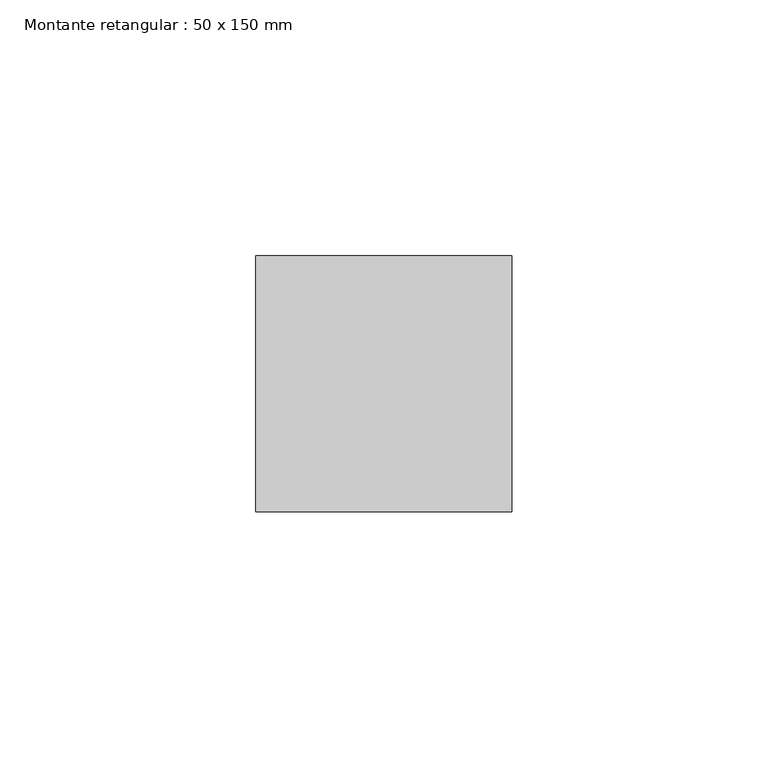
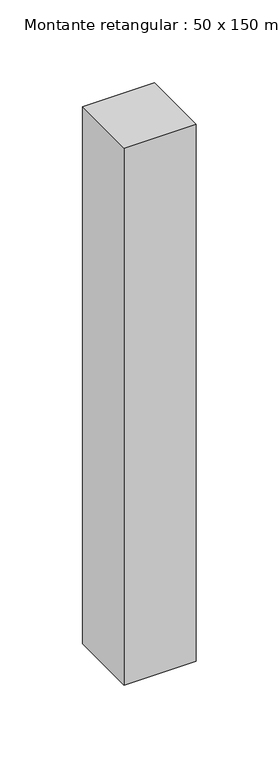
"""IFC4 building model written with IfcOpenShell, lengths in millimetres: member geometry, Montante retangular : 50 x 150 mm."""

from ifc_helpers import new_model, si_unit, frame, origin, place, context, project, spatial, polyline, outline, extrude, source, transform, mapped, element, save


def montante_retangular_50_x_150_mm_6c8b05e2(model_context):
    return source(origin(), model_context, "Body", "SweptSolid", [
        extrude(outline(polyline([(0.0, 25.0), (0.0, -25.0), (-50.0, -25.0), (-50.0, 25.0), (0.0, 25.0)])), frame((0.0, 0.0, -395.0), z_axis=(0.0, 0.0, 1.0), x_axis=(1.0, 0.0, 0.0)), (0.0, 0.0, 1.0), 395.0),
    ])


if __name__ == "__main__":
    model = new_model("IFC4")
    model_context = context("Model", 3, world=origin())
    ifc_project = project(units=[si_unit("LENGTHUNIT", "METRE", prefix="MILLI")], contexts=[model_context])
    site = spatial("IfcSite", under=ifc_project)
    building = spatial("IfcBuilding", under=site)
    placement = place(None, origin())
    montante_retangular_50_x_150_mm_shape = montante_retangular_50_x_150_mm_6c8b05e2(model_context)
    element("IfcMember", 1, ObjectType="Montante retangular : 50 x 150 mm", at=placement, inside=building, context=model_context, shape_type="MappedRepresentation", body=[
        mapped(montante_retangular_50_x_150_mm_shape, transform((0.0, 0.0, 0.0), x_axis=(1.0, 0.0, 0.0), y_axis=(0.0, 1.0, 0.0), z_axis=(0.0, 0.0, 1.0))),
    ])
    save(model, "model.ifc")
